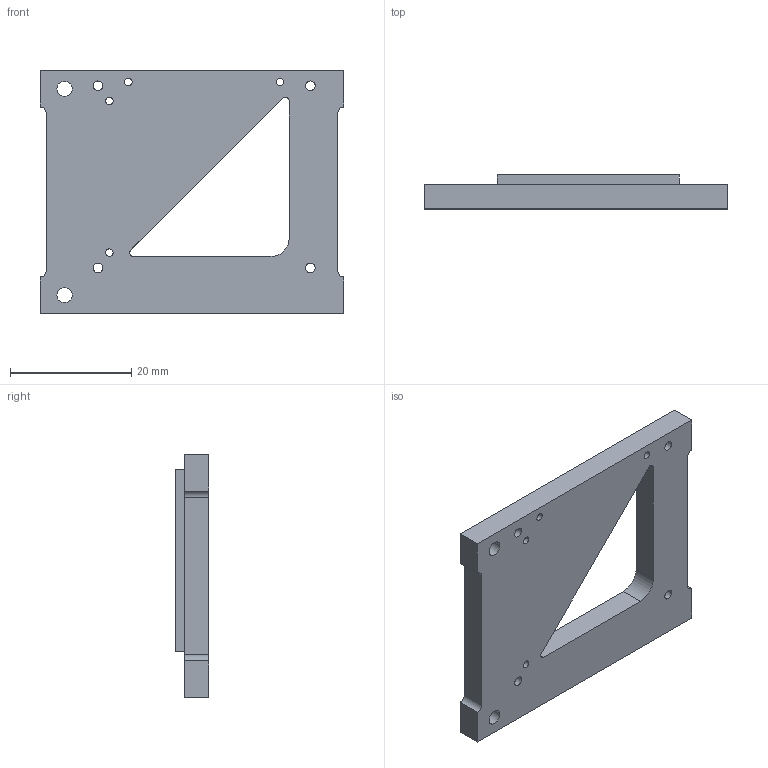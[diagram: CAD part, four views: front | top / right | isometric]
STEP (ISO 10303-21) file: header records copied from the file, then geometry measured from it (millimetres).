
FILE_DESCRIPTION(/* description */ ('','CAx-IF Rec.Pracs.---Representation and Presentation of Product Manufacturing Information (PMI)---4.0---2014-10-13'),/* implementation_level */ '2;1');
FILE_NAME(/* name */ 'a1_mini_dc_reflection_v5.step',/* time_stamp */ '2025-01-03T01:52:50+08:00',/* author */ (''),/* organization */ (''),/* preprocessor_version */ 'ST-DEVELOPER v20',/* originating_system */ 'Autodesk Translation Framework v13.20.0.188',/* authorisation */ '');
FILE_SCHEMA (('AP242_MANAGED_MODEL_BASED_3D_ENGINEERING_MIM_LF { 1 0 10303 442 1 1 4 }'));
Length unit declared in the file: millimetre
Products named in the file (1): a1_mini_dc_reflection
Bounding box: 50 x 5.6 x 40 mm (x, y, z)
Volume: 6947.5 mm3; surface area: 4565.9 mm2
Topology: 1 solids, 1 shells, 33 faces, 101 edges, 66 vertices
Faces by surface type: cylinder 17, plane 16
Full cylindrical faces by diameter (mm): 1.25 x4, 1.6 x4, 2.5 x2
Entity records: 1218 total; most frequent: DIRECTION 207, ORIENTED_EDGE 202, CARTESIAN_POINT 201, EDGE_CURVE 101, AXIS2_PLACEMENT_3D 72, VERTEX_POINT 66, LINE 63, VECTOR 63
